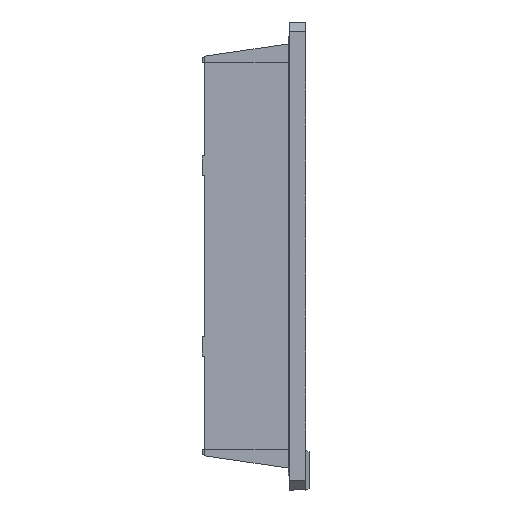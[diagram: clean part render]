
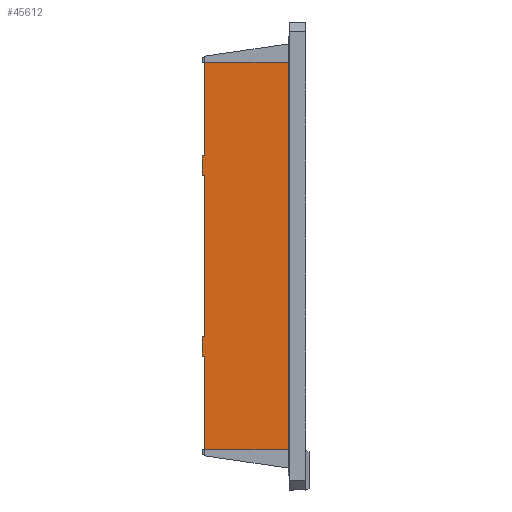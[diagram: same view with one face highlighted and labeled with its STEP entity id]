
A CAD part, left-side view. The second image highlights one B-rep face of the part: STEP entity #45612.
In plain terms, the highlighted planar face has unit normal (-1, 0, 0).
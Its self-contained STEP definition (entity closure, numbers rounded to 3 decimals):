
#193 = LINE ( 'NONE', #10890, #19896 ) ;
#1031 = CARTESIAN_POINT ( 'NONE',  ( -61.5, 30., 25. ) ) ;
#2544 = VECTOR ( 'NONE', #11876, 1000. ) ;
#3479 = ORIENTED_EDGE ( 'NONE', *, *, #3582, .F. ) ;
#3564 = ORIENTED_EDGE ( 'NONE', *, *, #21652, .F. ) ;
#3575 = VECTOR ( 'NONE', #46921, 1000. ) ;
#3582 = EDGE_CURVE ( 'NONE', #42514, #30347, #5990, .T. ) ;
#4635 = LINE ( 'NONE', #40658, #13292 ) ;
#4763 = VERTEX_POINT ( 'NONE', #25598 ) ;
#5586 = ORIENTED_EDGE ( 'NONE', *, *, #5930, .T. ) ;
#5930 = EDGE_CURVE ( 'NONE', #44522, #22934, #26201, .T. ) ;
#5989 = EDGE_CURVE ( 'NONE', #18093, #12908, #34949, .T. ) ;
#5990 = LINE ( 'NONE', #34282, #44425 ) ;
#6795 = CARTESIAN_POINT ( 'NONE',  ( -61.5, 29.25, -61.5 ) ) ;
#7125 = CARTESIAN_POINT ( 'NONE',  ( -61.5, 30., -31. ) ) ;
#7411 = EDGE_LOOP ( 'NONE', ( #5586, #30295, #29350, #3564, #7461, #3479, #37119, #17109, #13125, #37578, #26192, #21525 ) ) ;
#7461 = ORIENTED_EDGE ( 'NONE', *, *, #39219, .T. ) ;
#7678 = LINE ( 'NONE', #40732, #26301 ) ;
#8337 = CARTESIAN_POINT ( 'NONE',  ( -61.5, 29.25, 31. ) ) ;
#9646 = EDGE_CURVE ( 'NONE', #44522, #25388, #18096, .T. ) ;
#10826 = DIRECTION ( 'NONE',  ( 0., -1., 0. ) ) ;
#10890 = CARTESIAN_POINT ( 'NONE',  ( -61.5, 30., 31. ) ) ;
#11178 = CARTESIAN_POINT ( 'NONE',  ( -61.5, -197.99, -61.5 ) ) ;
#11876 = DIRECTION ( 'NONE',  ( 0., -1., 0. ) ) ;
#12566 = EDGE_CURVE ( 'NONE', #25388, #14423, #4635, .T. ) ;
#12908 = VERTEX_POINT ( 'NONE', #17128 ) ;
#13125 = ORIENTED_EDGE ( 'NONE', *, *, #45902, .T. ) ;
#13292 = VECTOR ( 'NONE', #14557, 1000. ) ;
#13709 = CARTESIAN_POINT ( 'NONE',  ( -61.5, 2., 60. ) ) ;
#14352 = EDGE_CURVE ( 'NONE', #27469, #22934, #30136, .T. ) ;
#14423 = VERTEX_POINT ( 'NONE', #41480 ) ;
#14557 = DIRECTION ( 'NONE',  ( 0., 1., 0. ) ) ;
#14822 = LINE ( 'NONE', #7125, #33488 ) ;
#14896 = DIRECTION ( 'NONE',  ( -1., 0., 0. ) ) ;
#17109 = ORIENTED_EDGE ( 'NONE', *, *, #5989, .F. ) ;
#17128 = CARTESIAN_POINT ( 'NONE',  ( -61.5, 30., -25. ) ) ;
#18093 = VERTEX_POINT ( 'NONE', #45313 ) ;
#18096 = LINE ( 'NONE', #28375, #3575 ) ;
#18436 = EDGE_CURVE ( 'NONE', #36149, #27469, #193, .T. ) ;
#19457 = CARTESIAN_POINT ( 'NONE',  ( -61.5, 30., -31. ) ) ;
#19896 = VECTOR ( 'NONE', #36945, 1000. ) ;
#20164 = VECTOR ( 'NONE', #33481, 1000. ) ;
#21049 = LINE ( 'NONE', #1031, #40906 ) ;
#21525 = ORIENTED_EDGE ( 'NONE', *, *, #9646, .F. ) ;
#21652 = EDGE_CURVE ( 'NONE', #4763, #36149, #21049, .T. ) ;
#21909 = LINE ( 'NONE', #6795, #41752 ) ;
#22896 = DIRECTION ( 'NONE',  ( 0., 1., 0. ) ) ;
#22934 = VERTEX_POINT ( 'NONE', #25375 ) ;
#23258 = DIRECTION ( 'NONE',  ( 0., 0., 1. ) ) ;
#25375 = CARTESIAN_POINT ( 'NONE',  ( -61.5, 29.25, 60. ) ) ;
#25388 = VERTEX_POINT ( 'NONE', #38313 ) ;
#25598 = CARTESIAN_POINT ( 'NONE',  ( -61.5, 30., 25. ) ) ;
#26010 = EDGE_CURVE ( 'NONE', #14423, #30916, #21909, .T. ) ;
#26192 = ORIENTED_EDGE ( 'NONE', *, *, #12566, .F. ) ;
#26201 = LINE ( 'NONE', #45204, #27377 ) ;
#26301 = VECTOR ( 'NONE', #44470, 1000. ) ;
#26981 = CARTESIAN_POINT ( 'NONE',  ( -61.5, 29.25, -25. ) ) ;
#27377 = VECTOR ( 'NONE', #22896, 1000. ) ;
#27469 = VERTEX_POINT ( 'NONE', #8337 ) ;
#28375 = CARTESIAN_POINT ( 'NONE',  ( -61.5, 2., -61.5 ) ) ;
#29350 = ORIENTED_EDGE ( 'NONE', *, *, #18436, .F. ) ;
#30136 = LINE ( 'NONE', #40915, #20164 ) ;
#30295 = ORIENTED_EDGE ( 'NONE', *, *, #14352, .F. ) ;
#30347 = VERTEX_POINT ( 'NONE', #40704 ) ;
#30825 = AXIS2_PLACEMENT_3D ( 'NONE', #11178, #14896, #40994 ) ;
#30916 = VERTEX_POINT ( 'NONE', #39770 ) ;
#31036 = LINE ( 'NONE', #34196, #2544 ) ;
#32806 = DIRECTION ( 'NONE',  ( 0., 0., 1. ) ) ;
#33481 = DIRECTION ( 'NONE',  ( 0., 0., 1. ) ) ;
#33488 = VECTOR ( 'NONE', #10826, 1000. ) ;
#34196 = CARTESIAN_POINT ( 'NONE',  ( -61.5, 30., -25. ) ) ;
#34282 = CARTESIAN_POINT ( 'NONE',  ( -61.5, 29.25, -61.5 ) ) ;
#34949 = LINE ( 'NONE', #19457, #44863 ) ;
#36035 = CARTESIAN_POINT ( 'NONE',  ( -61.5, 30., 31. ) ) ;
#36149 = VERTEX_POINT ( 'NONE', #36035 ) ;
#36773 = EDGE_CURVE ( 'NONE', #12908, #42514, #31036, .T. ) ;
#36945 = DIRECTION ( 'NONE',  ( 0., -1., 0. ) ) ;
#37119 = ORIENTED_EDGE ( 'NONE', *, *, #36773, .F. ) ;
#37244 = PLANE ( 'NONE',  #30825 ) ;
#37578 = ORIENTED_EDGE ( 'NONE', *, *, #26010, .F. ) ;
#38313 = CARTESIAN_POINT ( 'NONE',  ( -61.5, 2., -60. ) ) ;
#39219 = EDGE_CURVE ( 'NONE', #4763, #30347, #7678, .T. ) ;
#39770 = CARTESIAN_POINT ( 'NONE',  ( -61.5, 29.25, -31. ) ) ;
#40658 = CARTESIAN_POINT ( 'NONE',  ( -61.5, -17.798, -60. ) ) ;
#40704 = CARTESIAN_POINT ( 'NONE',  ( -61.5, 29.25, 25. ) ) ;
#40732 = CARTESIAN_POINT ( 'NONE',  ( -61.5, 30., 25. ) ) ;
#40906 = VECTOR ( 'NONE', #23258, 1000. ) ;
#40915 = CARTESIAN_POINT ( 'NONE',  ( -61.5, 29.25, -61.5 ) ) ;
#40994 = DIRECTION ( 'NONE',  ( 0., 0., 1. ) ) ;
#41480 = CARTESIAN_POINT ( 'NONE',  ( -61.5, 29.25, -60. ) ) ;
#41693 = FACE_OUTER_BOUND ( 'NONE', #7411, .T. ) ;
#41752 = VECTOR ( 'NONE', #32806, 1000. ) ;
#41789 = DIRECTION ( 'NONE',  ( 0., 0., 1. ) ) ;
#42514 = VERTEX_POINT ( 'NONE', #26981 ) ;
#44425 = VECTOR ( 'NONE', #45656, 1000. ) ;
#44470 = DIRECTION ( 'NONE',  ( 0., -1., 0. ) ) ;
#44522 = VERTEX_POINT ( 'NONE', #13709 ) ;
#44863 = VECTOR ( 'NONE', #41789, 1000. ) ;
#45204 = CARTESIAN_POINT ( 'NONE',  ( -61.5, -17.798, 60. ) ) ;
#45313 = CARTESIAN_POINT ( 'NONE',  ( -61.5, 30., -31. ) ) ;
#45612 = ADVANCED_FACE ( 'NONE', ( #41693 ), #37244, .T. ) ;
#45656 = DIRECTION ( 'NONE',  ( 0., 0., 1. ) ) ;
#45902 = EDGE_CURVE ( 'NONE', #18093, #30916, #14822, .T. ) ;
#46921 = DIRECTION ( 'NONE',  ( 0., 0., -1. ) ) ;
